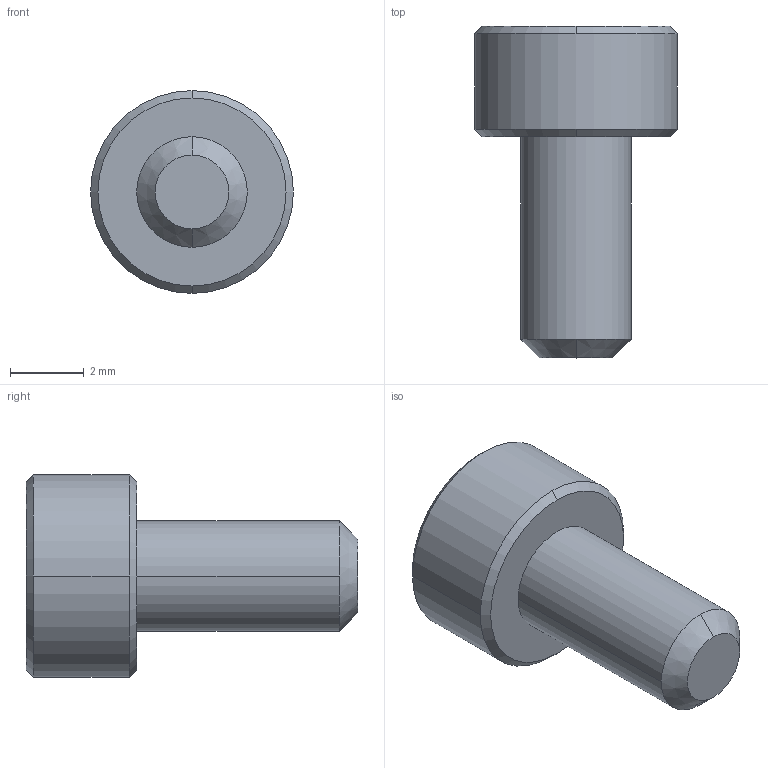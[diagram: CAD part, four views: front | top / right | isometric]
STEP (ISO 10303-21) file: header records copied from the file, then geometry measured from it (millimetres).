
FILE_DESCRIPTION (( 'STEP AP214' ), '1' );
FILE_NAME ('vite alluminio M3.STEP', '2016-02-27T08:13:25', ( '' ), ( '' ), 'SwSTEP 2.0', 'SolidWorks 2012', '' );
FILE_SCHEMA (( 'AUTOMOTIVE_DESIGN' ));
Length unit declared in the file: millimetre
Products named in the file (1): vite alluminio M3
Bounding box: 5.5 x 9 x 5.5 mm (x, y, z)
Volume: 101.1 mm3; surface area: 166 mm2
Topology: 1 solids, 1 shells, 20 faces, 48 edges, 32 vertices
Faces by surface type: plane 10, cone 6, cylinder 4
Entity records: 626 total; most frequent: DIRECTION 110, CARTESIAN_POINT 101, ORIENTED_EDGE 96, EDGE_CURVE 48, AXIS2_PLACEMENT_3D 41, VERTEX_POINT 32, LINE 28, VECTOR 28
